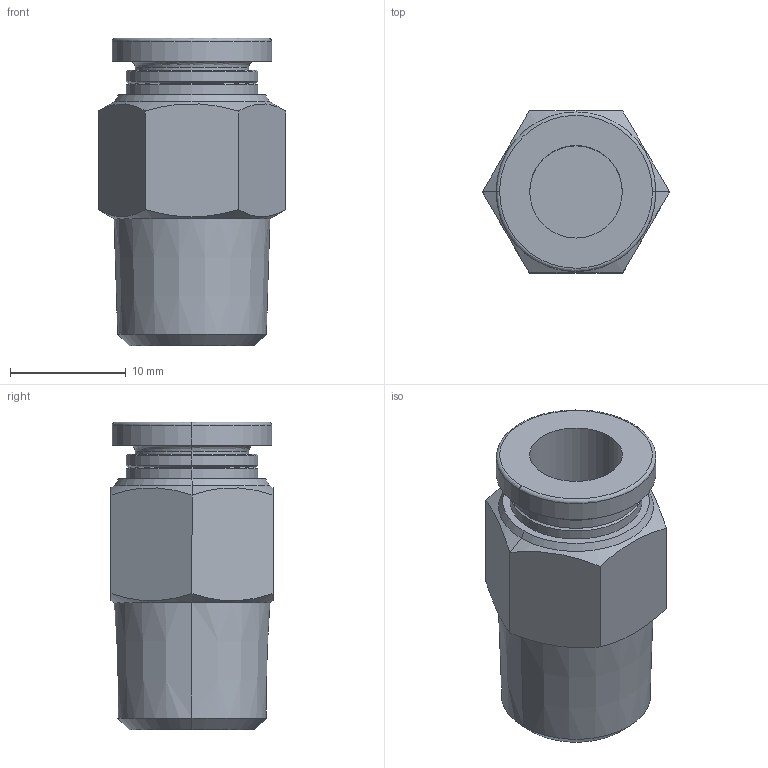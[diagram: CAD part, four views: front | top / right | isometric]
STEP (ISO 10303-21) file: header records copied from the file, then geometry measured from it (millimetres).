
FILE_DESCRIPTION (( 'STEP AP214' ), '1' );
FILE_NAME ('APC8-02.STEP', '2019-12-05T06:18:16', ( '微软用户' ), ( '微软中国' ), 'SwSTEP 2.0', 'SolidWorks 2016', '' );
FILE_SCHEMA (( 'AUTOMOTIVE_DESIGN' ));
Length unit declared in the file: millimetre
Products named in the file (1): APC8-02
Bounding box: 16.17 x 14 x 26.6 mm (x, y, z)
Volume: 2908.7 mm3; surface area: 2015.7 mm2
Topology: 1 solids, 1 shells, 44 faces, 95 edges, 57 vertices
Faces by surface type: cone 18, plane 12, cylinder 10, bspline 4
Entity records: 1696 total; most frequent: CARTESIAN_POINT 724, DIRECTION 200, ORIENTED_EDGE 190, EDGE_CURVE 95, AXIS2_PLACEMENT_3D 83, VERTEX_POINT 57, EDGE_LOOP 48, FACE_OUTER_BOUND 44
